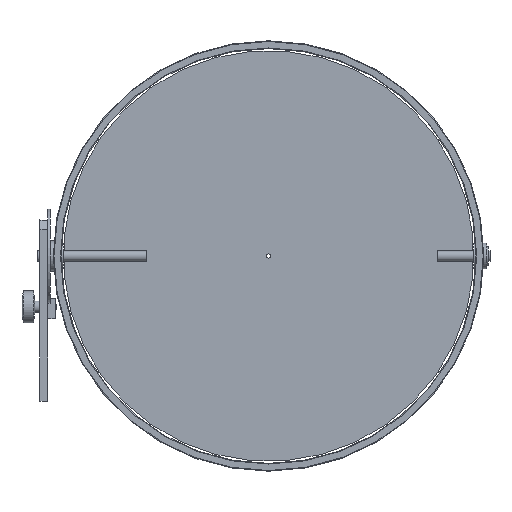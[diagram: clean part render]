
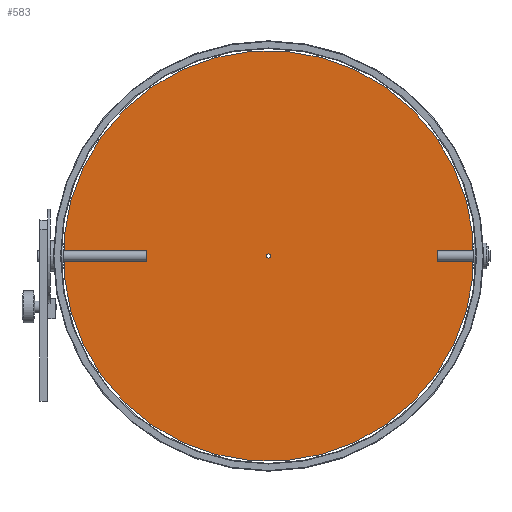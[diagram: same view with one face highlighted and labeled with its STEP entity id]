
A CAD part, left-side view. The second image highlights one B-rep face of the part: STEP entity #583.
In plain terms, the highlighted planar face has unit normal (-1, 0, 0).
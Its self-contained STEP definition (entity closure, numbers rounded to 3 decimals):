
#97=LINE('',#3802,#139);
#102=LINE('',#3816,#144);
#139=VECTOR('',#2326,1.);
#144=VECTOR('',#2339,1.);
#425=FACE_BOUND('',#851,.T.);
#426=FACE_BOUND('',#852,.T.);
#427=FACE_BOUND('',#853,.T.);
#428=FACE_BOUND('',#854,.T.);
#429=FACE_BOUND('',#855,.T.);
#430=FACE_BOUND('',#856,.T.);
#431=FACE_BOUND('',#857,.T.);
#432=FACE_BOUND('',#858,.T.);
#433=FACE_BOUND('',#859,.T.);
#583=ADVANCED_FACE('',(#425,#426,#427,#428,#429,#430,#431,#432,#433),#640,
 .T.);
#640=PLANE('',#2014);
#851=EDGE_LOOP('',(#1219,#1220,#1221,#1222));
#852=EDGE_LOOP('',(#1223));
#853=EDGE_LOOP('',(#1224));
#854=EDGE_LOOP('',(#1225));
#855=EDGE_LOOP('',(#1226));
#856=EDGE_LOOP('',(#1227));
#857=EDGE_LOOP('',(#1228));
#858=EDGE_LOOP('',(#1229));
#859=EDGE_LOOP('',(#1230));
#1219=ORIENTED_EDGE('',*,*,#1682,.T.);
#1220=ORIENTED_EDGE('',*,*,#1659,.T.);
#1221=ORIENTED_EDGE('',*,*,#1663,.T.);
#1222=ORIENTED_EDGE('',*,*,#1666,.T.);
#1223=ORIENTED_EDGE('',*,*,#1679,.T.);
#1224=ORIENTED_EDGE('',*,*,#1677,.F.);
#1225=ORIENTED_EDGE('',*,*,#1675,.F.);
#1226=ORIENTED_EDGE('',*,*,#1673,.F.);
#1227=ORIENTED_EDGE('',*,*,#1671,.F.);
#1228=ORIENTED_EDGE('',*,*,#1669,.F.);
#1229=ORIENTED_EDGE('',*,*,#1667,.F.);
#1230=ORIENTED_EDGE('',*,*,#1683,.T.);
#1460=VERTEX_POINT('',#3801);
#1461=VERTEX_POINT('',#3803);
#1463=VERTEX_POINT('',#3809);
#1465=VERTEX_POINT('',#3815);
#1466=VERTEX_POINT('',#3819);
#1468=VERTEX_POINT('',#3824);
#1470=VERTEX_POINT('',#3829);
#1472=VERTEX_POINT('',#3834);
#1474=VERTEX_POINT('',#3839);
#1476=VERTEX_POINT('',#3844);
#1478=VERTEX_POINT('',#3849);
#1480=VERTEX_POINT('',#3857);
#1659=EDGE_CURVE('',#1461,#1460,#97,.T.);
#1663=EDGE_CURVE('',#1460,#1463,#1815,.T.);
#1666=EDGE_CURVE('',#1463,#1465,#102,.T.);
#1667=EDGE_CURVE('',#1466,#1466,#1816,.T.);
#1669=EDGE_CURVE('',#1468,#1468,#1818,.T.);
#1671=EDGE_CURVE('',#1470,#1470,#1820,.T.);
#1673=EDGE_CURVE('',#1472,#1472,#1822,.T.);
#1675=EDGE_CURVE('',#1474,#1474,#1824,.T.);
#1677=EDGE_CURVE('',#1476,#1476,#1826,.T.);
#1679=EDGE_CURVE('',#1478,#1478,#1828,.T.);
#1682=EDGE_CURVE('',#1465,#1461,#1831,.T.);
#1683=EDGE_CURVE('',#1480,#1480,#1832,.T.);
#1815=CIRCLE('',#1984,396.);
#1816=CIRCLE('',#1987,4.);
#1818=CIRCLE('',#1990,4.);
#1820=CIRCLE('',#1993,4.);
#1822=CIRCLE('',#1996,4.);
#1824=CIRCLE('',#1999,4.);
#1826=CIRCLE('',#2002,4.);
#1828=CIRCLE('',#2005,4.);
#1831=CIRCLE('',#2009,396.);
#1832=CIRCLE('',#2011,4.);
#1984=AXIS2_PLACEMENT_3D('',#3810,#2333,#2334);
#1987=AXIS2_PLACEMENT_3D('',#3818,#2342,#2343);
#1990=AXIS2_PLACEMENT_3D('',#3823,#2348,#2349);
#1993=AXIS2_PLACEMENT_3D('',#3828,#2354,#2355);
#1996=AXIS2_PLACEMENT_3D('',#3833,#2360,#2361);
#1999=AXIS2_PLACEMENT_3D('',#3838,#2366,#2367);
#2002=AXIS2_PLACEMENT_3D('',#3843,#2372,#2373);
#2005=AXIS2_PLACEMENT_3D('',#3848,#2378,#2379);
#2009=AXIS2_PLACEMENT_3D('',#3854,#2386,#2387);
#2011=AXIS2_PLACEMENT_3D('',#3856,#2390,#2391);
#2014=AXIS2_PLACEMENT_3D('',#3861,#2396,#2397);
#2326=DIRECTION('',(0.,0.,1.));
#2333=DIRECTION('',(-1.,0.,0.));
#2334=DIRECTION('',(0.,0.,1.));
#2339=DIRECTION('',(0.,0.,-1.));
#2342=DIRECTION('',(-1.,0.,0.));
#2343=DIRECTION('',(0.,0.,1.));
#2348=DIRECTION('',(-1.,0.,0.));
#2349=DIRECTION('',(0.,0.,1.));
#2354=DIRECTION('',(-1.,0.,0.));
#2355=DIRECTION('',(0.,0.,1.));
#2360=DIRECTION('',(-1.,0.,0.));
#2361=DIRECTION('',(0.,0.,1.));
#2366=DIRECTION('',(-1.,0.,0.));
#2367=DIRECTION('',(0.,0.,1.));
#2372=DIRECTION('',(-1.,0.,0.));
#2373=DIRECTION('',(0.,0.,1.));
#2378=DIRECTION('',(1.,0.,0.));
#2379=DIRECTION('',(0.,0.,1.));
#2386=DIRECTION('',(-1.,0.,0.));
#2387=DIRECTION('',(0.,0.,1.));
#2390=DIRECTION('',(1.,0.,0.));
#2391=DIRECTION('',(0.,0.,1.));
#2396=DIRECTION('',(-1.,0.,0.));
#2397=DIRECTION('',(0.,0.,1.));
#3801=CARTESIAN_POINT('',(-1.2,-503.,164.749));
#3802=CARTESIAN_POINT('',(-1.2,-503.,85.251));
#3803=CARTESIAN_POINT('',(-1.2,-503.,85.251));
#3809=CARTESIAN_POINT('',(-1.2,285.,164.749));
#3810=CARTESIAN_POINT('',(-1.2,-109.,125.));
#3815=CARTESIAN_POINT('',(-1.2,285.,85.251));
#3816=CARTESIAN_POINT('',(-1.2,285.,164.749));
#3818=CARTESIAN_POINT('',(-1.2,-109.,125.));
#3819=CARTESIAN_POINT('',(-1.2,-109.,129.));
#3823=CARTESIAN_POINT('',(-1.2,171.,125.));
#3824=CARTESIAN_POINT('',(-1.2,171.,129.));
#3828=CARTESIAN_POINT('',(-1.2,201.,125.));
#3829=CARTESIAN_POINT('',(-1.2,201.,129.));
#3833=CARTESIAN_POINT('',(-1.2,141.,125.));
#3834=CARTESIAN_POINT('',(-1.2,141.,129.));
#3838=CARTESIAN_POINT('',(-1.2,231.,125.));
#3839=CARTESIAN_POINT('',(-1.2,231.,129.));
#3843=CARTESIAN_POINT('',(-1.2,261.,125.));
#3844=CARTESIAN_POINT('',(-1.2,261.,129.));
#3848=CARTESIAN_POINT('',(-1.2,-449.,125.));
#3849=CARTESIAN_POINT('',(-1.2,-449.,129.));
#3854=CARTESIAN_POINT('',(-1.2,-109.,125.));
#3856=CARTESIAN_POINT('',(-1.2,-479.,125.));
#3857=CARTESIAN_POINT('',(-1.2,-479.,129.));
#3861=CARTESIAN_POINT('',(-1.2,-109.,125.));
